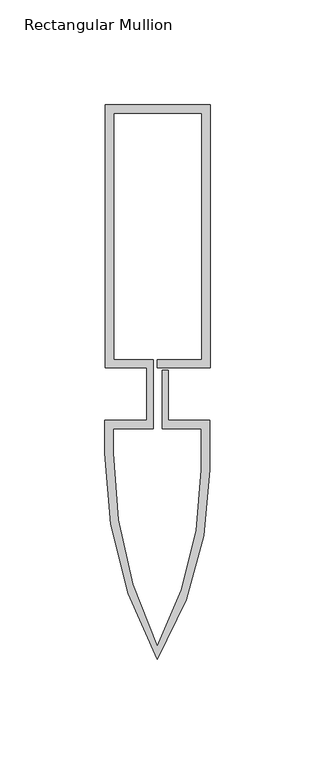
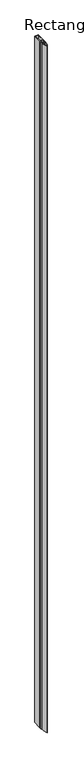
"""IFC4 building model written with IfcOpenShell, lengths in millimetres: member geometry, Rectangular Mullion : Reynaers_CW-50_Mullion-Transom_Vertical_125.5mm_Facecap-05."""

from ifc_helpers import new_model, si_unit, point, frame, frame_2d, origin, place, context, project, spatial, polyline, circle_curve, trimmed, segment, composite_curve, outline, extrude, source, transform, mapped, element, save


def rectangular_mullion_bbcb7b6a(model_context):
    return source(origin(), model_context, "Body", "SweptSolid", [
        extrude(outline(composite_curve([segment(polyline([(-24.8004059, 138.0), (25.1995941, 138.0), (25.1995941, 12.5), (0.0, 12.5), (0.0, 16.5), (21.1995941, 16.5), (21.1995941, 134.0), (-20.8004059, 134.0), (-20.8004059, 16.5), (-1.9004059, 16.5), (-1.9004059, -16.5), (-20.994845, -16.5), (-20.994845, -28.2355063)]), True, "CONTINUOUS"), segment(trimmed(circle_curve(frame_2d((191.2554764, -28.2355063)), 212.2503214), [point((-20.994845, -28.2355063))], [point((0.0, -120.2764846))], True, "CARTESIAN"), True, "CONTINUOUS"), segment(trimmed(circle_curve(frame_2d((-158.432152, -36.0547506)), 179.426997), [point((0.0, -120.2764846))], [point((20.994845, -36.0547506))], True, "CARTESIAN"), True, "CONTINUOUS"), segment(polyline([(20.994845, -36.0547506), (20.994845, -16.5), (2.2995941, -16.5), (2.2995941, 11.5), (5.2995941, 11.5), (5.2995941, -12.5), (24.994845, -12.5), (24.994845, -36.0195976)]), True, "CONTINUOUS"), segment(trimmed(circle_curve(frame_2d((-151.2704106, -36.0195976)), 176.2652556), [point((24.994845, -36.0195976))], [point((0.0, -126.5))], False, "CARTESIAN"), True, "CONTINUOUS"), segment(trimmed(circle_curve(frame_2d((181.1469577, -28.111878)), 206.1418028), [point((0.0, -126.5))], [point((-24.994845, -28.111878))], False, "CARTESIAN"), True, "CONTINUOUS"), segment(polyline([(-24.994845, -28.111878), (-24.994845, -12.5), (-4.9004059, -12.5), (-4.9004059, 12.5), (-24.8004059, 12.5), (-24.8004059, 138.0)]), True, "CONTINUOUS")], self_intersect=False)), frame((0.0, 0.0, -10400.0), z_axis=(0.0, 0.0, 1.0), x_axis=(1.0, 0.0, 0.0)), (0.0, 0.0, 1.0), 10400.0),
    ])


if __name__ == "__main__":
    model = new_model("IFC4")
    model_context = context("Model", 3, world=origin())
    ifc_project = project(units=[si_unit("LENGTHUNIT", "METRE", prefix="MILLI")], contexts=[model_context])
    site = spatial("IfcSite", under=ifc_project)
    building = spatial("IfcBuilding", under=site)
    placement = place(None, origin())
    rectangular_mullion_shape = rectangular_mullion_bbcb7b6a(model_context)
    element("IfcMember", 1, ObjectType="Rectangular Mullion : Reynaers_CW-50_Mullion-Transom_Vertical_125.5mm_Facecap-05", at=placement, inside=building, context=model_context, shape_type="MappedRepresentation", body=[
        mapped(rectangular_mullion_shape, transform((0.0, 0.0, 0.0), x_axis=(1.0, 0.0, 0.0), y_axis=(0.0, 1.0, 0.0), z_axis=(0.0, 0.0, 1.0))),
    ])
    save(model, "model.ifc")
